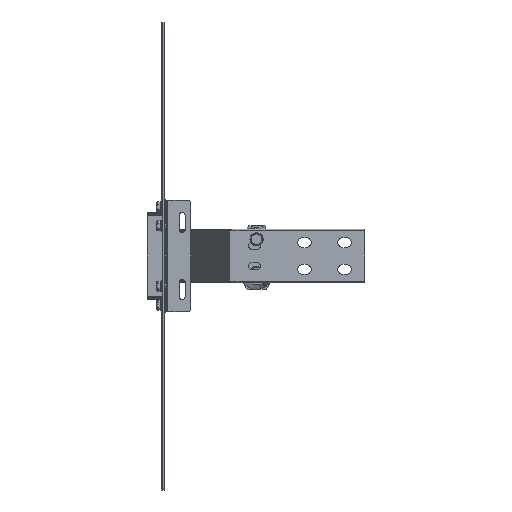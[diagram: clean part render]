
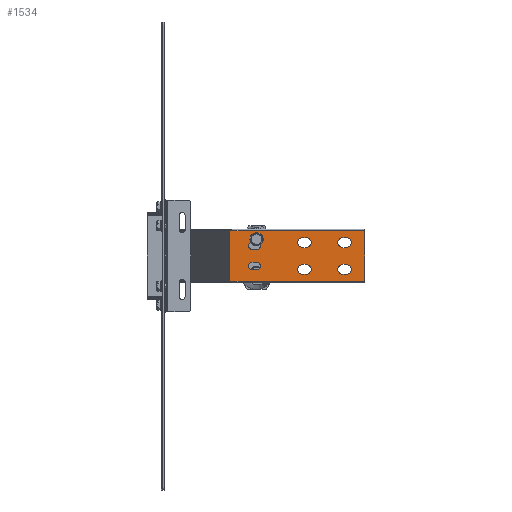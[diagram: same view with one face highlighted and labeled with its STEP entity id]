
A CAD part, front view. The second image highlights one B-rep face of the part: STEP entity #1534.
In plain terms, the highlighted planar face has unit normal (0, -1, 0).
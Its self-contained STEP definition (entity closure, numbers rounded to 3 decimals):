
#1290=AXIS2_PLACEMENT_3D('Circle Axis2P3D',#1288,#1289,$) ;
#1310=AXIS2_PLACEMENT_3D('Plane Axis2P3D',#1307,#1308,#1309) ;
#1348=AXIS2_PLACEMENT_3D('Circle Axis2P3D',#1346,#1347,$) ;
#1366=AXIS2_PLACEMENT_3D('Circle Axis2P3D',#1364,#1365,$) ;
#1382=AXIS2_PLACEMENT_3D('Circle Axis2P3D',#1380,#1381,$) ;
#1400=AXIS2_PLACEMENT_3D('Circle Axis2P3D',#1398,#1399,$) ;
#1416=AXIS2_PLACEMENT_3D('Circle Axis2P3D',#1414,#1415,$) ;
#1443=AXIS2_PLACEMENT_3D('Circle Axis2P3D',#1441,#1442,$) ;
#1457=AXIS2_PLACEMENT_3D('Circle Axis2P3D',#1455,#1456,$) ;
#1468=AXIS2_PLACEMENT_3D('Circle Axis2P3D',#1466,#1467,$) ;
#1484=AXIS2_PLACEMENT_3D('Circle Axis2P3D',#1482,#1483,$) ;
#1502=AXIS2_PLACEMENT_3D('Circle Axis2P3D',#1500,#1501,$) ;
#1518=AXIS2_PLACEMENT_3D('Circle Axis2P3D',#1516,#1517,$) ;
#1254=CARTESIAN_POINT('Vertex',(212.5,-217.2,27.5)) ;
#1257=CARTESIAN_POINT('Line Origine',(210.,-217.2,27.5)) ;
#1261=CARTESIAN_POINT('Vertex',(207.5,-217.2,27.5)) ;
#1288=CARTESIAN_POINT('Axis2P3D Location',(207.5,-217.2,20.)) ;
#1292=CARTESIAN_POINT('Vertex',(207.5,-217.2,12.5)) ;
#1307=CARTESIAN_POINT('Axis2P3D Location',(300.,-217.2,-37.8)) ;
#1312=CARTESIAN_POINT('Line Origine',(199.278,-217.2,-37.8)) ;
#1316=CARTESIAN_POINT('Vertex',(300.,-217.2,-37.8)) ;
#1318=CARTESIAN_POINT('Vertex',(98.557,-217.2,-37.8)) ;
#1321=CARTESIAN_POINT('Line Origine',(300.,-217.2,0.)) ;
#1325=CARTESIAN_POINT('Vertex',(300.,-217.2,37.8)) ;
#1328=CARTESIAN_POINT('Line Origine',(199.278,-217.2,37.8)) ;
#1332=CARTESIAN_POINT('Vertex',(98.557,-217.2,37.8)) ;
#1335=CARTESIAN_POINT('Line Origine',(98.557,-217.2,0.)) ;
#1346=CARTESIAN_POINT('Axis2P3D Location',(212.5,-217.2,20.)) ;
#1350=CARTESIAN_POINT('Vertex',(212.5,-217.2,12.5)) ;
#1353=CARTESIAN_POINT('Line Origine',(210.,-217.2,12.5)) ;
#1364=CARTESIAN_POINT('Axis2P3D Location',(272.5,-217.2,20.)) ;
#1368=CARTESIAN_POINT('Vertex',(272.5,-217.2,12.5)) ;
#1370=CARTESIAN_POINT('Vertex',(272.5,-217.2,27.5)) ;
#1373=CARTESIAN_POINT('Line Origine',(270.,-217.2,12.5)) ;
#1377=CARTESIAN_POINT('Vertex',(267.5,-217.2,12.5)) ;
#1380=CARTESIAN_POINT('Axis2P3D Location',(267.5,-217.2,20.)) ;
#1384=CARTESIAN_POINT('Vertex',(267.5,-217.2,27.5)) ;
#1387=CARTESIAN_POINT('Line Origine',(270.,-217.2,27.5)) ;
#1398=CARTESIAN_POINT('Axis2P3D Location',(207.5,-217.2,-20.)) ;
#1402=CARTESIAN_POINT('Vertex',(207.5,-217.2,-12.5)) ;
#1404=CARTESIAN_POINT('Vertex',(207.5,-217.2,-27.5)) ;
#1407=CARTESIAN_POINT('Line Origine',(210.,-217.2,-12.5)) ;
#1411=CARTESIAN_POINT('Vertex',(212.5,-217.2,-12.5)) ;
#1414=CARTESIAN_POINT('Axis2P3D Location',(212.5,-217.2,-20.)) ;
#1418=CARTESIAN_POINT('Vertex',(212.5,-217.2,-27.5)) ;
#1421=CARTESIAN_POINT('Line Origine',(210.,-217.2,-27.5)) ;
#1432=CARTESIAN_POINT('Line Origine',(270.,-217.2,-12.5)) ;
#1436=CARTESIAN_POINT('Vertex',(272.5,-217.2,-12.5)) ;
#1438=CARTESIAN_POINT('Vertex',(267.5,-217.2,-12.5)) ;
#1441=CARTESIAN_POINT('Axis2P3D Location',(272.5,-217.2,-20.)) ;
#1445=CARTESIAN_POINT('Vertex',(272.5,-217.2,-27.5)) ;
#1448=CARTESIAN_POINT('Line Origine',(270.,-217.2,-27.5)) ;
#1452=CARTESIAN_POINT('Vertex',(267.5,-217.2,-27.5)) ;
#1455=CARTESIAN_POINT('Axis2P3D Location',(267.5,-217.2,-20.)) ;
#1466=CARTESIAN_POINT('Axis2P3D Location',(138.5,-217.2,15.)) ;
#1470=CARTESIAN_POINT('Vertex',(138.5,-217.2,9.5)) ;
#1472=CARTESIAN_POINT('Vertex',(138.5,-217.2,20.5)) ;
#1475=CARTESIAN_POINT('Line Origine',(135.,-217.2,9.5)) ;
#1479=CARTESIAN_POINT('Vertex',(131.5,-217.2,9.5)) ;
#1482=CARTESIAN_POINT('Axis2P3D Location',(131.5,-217.2,15.)) ;
#1486=CARTESIAN_POINT('Vertex',(131.5,-217.2,20.5)) ;
#1489=CARTESIAN_POINT('Line Origine',(135.,-217.2,20.5)) ;
#1500=CARTESIAN_POINT('Axis2P3D Location',(131.5,-217.2,-15.)) ;
#1504=CARTESIAN_POINT('Vertex',(131.5,-217.2,-9.5)) ;
#1506=CARTESIAN_POINT('Vertex',(131.5,-217.2,-20.5)) ;
#1509=CARTESIAN_POINT('Line Origine',(135.,-217.2,-9.5)) ;
#1513=CARTESIAN_POINT('Vertex',(138.5,-217.2,-9.5)) ;
#1516=CARTESIAN_POINT('Axis2P3D Location',(138.5,-217.2,-15.)) ;
#1520=CARTESIAN_POINT('Vertex',(138.5,-217.2,-20.5)) ;
#1523=CARTESIAN_POINT('Line Origine',(135.,-217.2,-20.5)) ;
#1258=DIRECTION('Vector Direction',(1.,0.,0.)) ;
#1289=DIRECTION('Axis2P3D Direction',(0.,-1.,0.)) ;
#1308=DIRECTION('Axis2P3D Direction',(0.,-1.,0.)) ;
#1309=DIRECTION('Axis2P3D XDirection',(0.,0.,1.)) ;
#1313=DIRECTION('Vector Direction',(-1.,0.,0.)) ;
#1322=DIRECTION('Vector Direction',(0.,0.,1.)) ;
#1329=DIRECTION('Vector Direction',(-1.,0.,0.)) ;
#1336=DIRECTION('Vector Direction',(0.,0.,1.)) ;
#1347=DIRECTION('Axis2P3D Direction',(0.,-1.,0.)) ;
#1354=DIRECTION('Vector Direction',(-1.,0.,0.)) ;
#1365=DIRECTION('Axis2P3D Direction',(0.,-1.,0.)) ;
#1374=DIRECTION('Vector Direction',(1.,0.,0.)) ;
#1381=DIRECTION('Axis2P3D Direction',(0.,-1.,0.)) ;
#1388=DIRECTION('Vector Direction',(-1.,0.,0.)) ;
#1399=DIRECTION('Axis2P3D Direction',(0.,-1.,0.)) ;
#1408=DIRECTION('Vector Direction',(-1.,0.,0.)) ;
#1415=DIRECTION('Axis2P3D Direction',(0.,-1.,0.)) ;
#1422=DIRECTION('Vector Direction',(1.,0.,0.)) ;
#1433=DIRECTION('Vector Direction',(1.,0.,0.)) ;
#1442=DIRECTION('Axis2P3D Direction',(0.,-1.,0.)) ;
#1449=DIRECTION('Vector Direction',(-1.,0.,0.)) ;
#1456=DIRECTION('Axis2P3D Direction',(0.,-1.,0.)) ;
#1467=DIRECTION('Axis2P3D Direction',(0.,-1.,0.)) ;
#1476=DIRECTION('Vector Direction',(-1.,0.,0.)) ;
#1483=DIRECTION('Axis2P3D Direction',(0.,-1.,0.)) ;
#1490=DIRECTION('Vector Direction',(1.,0.,0.)) ;
#1501=DIRECTION('Axis2P3D Direction',(0.,-1.,0.)) ;
#1510=DIRECTION('Vector Direction',(-1.,0.,0.)) ;
#1517=DIRECTION('Axis2P3D Direction',(0.,-1.,0.)) ;
#1524=DIRECTION('Vector Direction',(1.,0.,0.)) ;
#1259=VECTOR('Line Direction',#1258,1.) ;
#1314=VECTOR('Line Direction',#1313,1.) ;
#1323=VECTOR('Line Direction',#1322,1.) ;
#1330=VECTOR('Line Direction',#1329,1.) ;
#1337=VECTOR('Line Direction',#1336,1.) ;
#1355=VECTOR('Line Direction',#1354,1.) ;
#1375=VECTOR('Line Direction',#1374,1.) ;
#1389=VECTOR('Line Direction',#1388,1.) ;
#1409=VECTOR('Line Direction',#1408,1.) ;
#1423=VECTOR('Line Direction',#1422,1.) ;
#1434=VECTOR('Line Direction',#1433,1.) ;
#1450=VECTOR('Line Direction',#1449,1.) ;
#1477=VECTOR('Line Direction',#1476,1.) ;
#1491=VECTOR('Line Direction',#1490,1.) ;
#1511=VECTOR('Line Direction',#1510,1.) ;
#1525=VECTOR('Line Direction',#1524,1.) ;
#1341=ORIENTED_EDGE('',*,*,#1320,.F.) ;
#1342=ORIENTED_EDGE('',*,*,#1327,.F.) ;
#1343=ORIENTED_EDGE('',*,*,#1334,.T.) ;
#1344=ORIENTED_EDGE('',*,*,#1339,.F.) ;
#1359=ORIENTED_EDGE('',*,*,#1352,.F.) ;
#1360=ORIENTED_EDGE('',*,*,#1357,.F.) ;
#1361=ORIENTED_EDGE('',*,*,#1294,.F.) ;
#1362=ORIENTED_EDGE('',*,*,#1263,.F.) ;
#1393=ORIENTED_EDGE('',*,*,#1372,.F.) ;
#1394=ORIENTED_EDGE('',*,*,#1379,.F.) ;
#1395=ORIENTED_EDGE('',*,*,#1386,.F.) ;
#1396=ORIENTED_EDGE('',*,*,#1391,.F.) ;
#1427=ORIENTED_EDGE('',*,*,#1406,.F.) ;
#1428=ORIENTED_EDGE('',*,*,#1413,.F.) ;
#1429=ORIENTED_EDGE('',*,*,#1420,.F.) ;
#1430=ORIENTED_EDGE('',*,*,#1425,.F.) ;
#1461=ORIENTED_EDGE('',*,*,#1440,.F.) ;
#1462=ORIENTED_EDGE('',*,*,#1447,.F.) ;
#1463=ORIENTED_EDGE('',*,*,#1454,.F.) ;
#1464=ORIENTED_EDGE('',*,*,#1459,.F.) ;
#1495=ORIENTED_EDGE('',*,*,#1474,.F.) ;
#1496=ORIENTED_EDGE('',*,*,#1481,.F.) ;
#1497=ORIENTED_EDGE('',*,*,#1488,.F.) ;
#1498=ORIENTED_EDGE('',*,*,#1493,.F.) ;
#1529=ORIENTED_EDGE('',*,*,#1508,.F.) ;
#1530=ORIENTED_EDGE('',*,*,#1515,.F.) ;
#1531=ORIENTED_EDGE('',*,*,#1522,.F.) ;
#1532=ORIENTED_EDGE('',*,*,#1527,.F.) ;
#1363=FACE_BOUND('',#1358,.T.) ;
#1397=FACE_BOUND('',#1392,.T.) ;
#1431=FACE_BOUND('',#1426,.T.) ;
#1465=FACE_BOUND('',#1460,.T.) ;
#1499=FACE_BOUND('',#1494,.T.) ;
#1533=FACE_BOUND('',#1528,.T.) ;
#1534=ADVANCED_FACE('N',(#1345,#1363,#1397,#1431,#1465,#1499,#1533),#1311,.T.) ;
#1291=CIRCLE('generated circle',#1290,7.5) ;
#1349=CIRCLE('generated circle',#1348,7.5) ;
#1367=CIRCLE('generated circle',#1366,7.5) ;
#1383=CIRCLE('generated circle',#1382,7.5) ;
#1401=CIRCLE('generated circle',#1400,7.5) ;
#1417=CIRCLE('generated circle',#1416,7.5) ;
#1444=CIRCLE('generated circle',#1443,7.5) ;
#1458=CIRCLE('generated circle',#1457,7.5) ;
#1469=CIRCLE('generated circle',#1468,5.5) ;
#1485=CIRCLE('generated circle',#1484,5.5) ;
#1503=CIRCLE('generated circle',#1502,5.5) ;
#1519=CIRCLE('generated circle',#1518,5.5) ;
#1263=EDGE_CURVE('',#1255,#1262,#1260,.F.) ;
#1294=EDGE_CURVE('',#1262,#1293,#1291,.T.) ;
#1320=EDGE_CURVE('',#1317,#1319,#1315,.T.) ;
#1327=EDGE_CURVE('',#1326,#1317,#1324,.F.) ;
#1334=EDGE_CURVE('',#1326,#1333,#1331,.T.) ;
#1339=EDGE_CURVE('',#1319,#1333,#1338,.T.) ;
#1352=EDGE_CURVE('',#1351,#1255,#1349,.T.) ;
#1357=EDGE_CURVE('',#1293,#1351,#1356,.F.) ;
#1372=EDGE_CURVE('',#1369,#1371,#1367,.T.) ;
#1379=EDGE_CURVE('',#1378,#1369,#1376,.T.) ;
#1386=EDGE_CURVE('',#1385,#1378,#1383,.T.) ;
#1391=EDGE_CURVE('',#1371,#1385,#1390,.T.) ;
#1406=EDGE_CURVE('',#1403,#1405,#1401,.T.) ;
#1413=EDGE_CURVE('',#1412,#1403,#1410,.T.) ;
#1420=EDGE_CURVE('',#1419,#1412,#1417,.T.) ;
#1425=EDGE_CURVE('',#1405,#1419,#1424,.T.) ;
#1440=EDGE_CURVE('',#1437,#1439,#1435,.F.) ;
#1447=EDGE_CURVE('',#1446,#1437,#1444,.T.) ;
#1454=EDGE_CURVE('',#1453,#1446,#1451,.F.) ;
#1459=EDGE_CURVE('',#1439,#1453,#1458,.T.) ;
#1474=EDGE_CURVE('',#1471,#1473,#1469,.T.) ;
#1481=EDGE_CURVE('',#1480,#1471,#1478,.F.) ;
#1488=EDGE_CURVE('',#1487,#1480,#1485,.T.) ;
#1493=EDGE_CURVE('',#1473,#1487,#1492,.F.) ;
#1508=EDGE_CURVE('',#1505,#1507,#1503,.T.) ;
#1515=EDGE_CURVE('',#1514,#1505,#1512,.T.) ;
#1522=EDGE_CURVE('',#1521,#1514,#1519,.T.) ;
#1527=EDGE_CURVE('',#1507,#1521,#1526,.T.) ;
#1340=EDGE_LOOP('',(#1341,#1342,#1343,#1344)) ;
#1358=EDGE_LOOP('',(#1359,#1360,#1361,#1362)) ;
#1392=EDGE_LOOP('',(#1393,#1394,#1395,#1396)) ;
#1426=EDGE_LOOP('',(#1427,#1428,#1429,#1430)) ;
#1460=EDGE_LOOP('',(#1461,#1462,#1463,#1464)) ;
#1494=EDGE_LOOP('',(#1495,#1496,#1497,#1498)) ;
#1528=EDGE_LOOP('',(#1529,#1530,#1531,#1532)) ;
#1345=FACE_OUTER_BOUND('',#1340,.T.) ;
#1260=LINE('Line',#1257,#1259) ;
#1315=LINE('Line',#1312,#1314) ;
#1324=LINE('Line',#1321,#1323) ;
#1331=LINE('Line',#1328,#1330) ;
#1338=LINE('Line',#1335,#1337) ;
#1356=LINE('Line',#1353,#1355) ;
#1376=LINE('Line',#1373,#1375) ;
#1390=LINE('Line',#1387,#1389) ;
#1410=LINE('Line',#1407,#1409) ;
#1424=LINE('Line',#1421,#1423) ;
#1435=LINE('Line',#1432,#1434) ;
#1451=LINE('Line',#1448,#1450) ;
#1478=LINE('Line',#1475,#1477) ;
#1492=LINE('Line',#1489,#1491) ;
#1512=LINE('Line',#1509,#1511) ;
#1526=LINE('Line',#1523,#1525) ;
#1311=PLANE('',#1310) ;
#1255=VERTEX_POINT('',#1254) ;
#1262=VERTEX_POINT('',#1261) ;
#1293=VERTEX_POINT('',#1292) ;
#1317=VERTEX_POINT('',#1316) ;
#1319=VERTEX_POINT('',#1318) ;
#1326=VERTEX_POINT('',#1325) ;
#1333=VERTEX_POINT('',#1332) ;
#1351=VERTEX_POINT('',#1350) ;
#1369=VERTEX_POINT('',#1368) ;
#1371=VERTEX_POINT('',#1370) ;
#1378=VERTEX_POINT('',#1377) ;
#1385=VERTEX_POINT('',#1384) ;
#1403=VERTEX_POINT('',#1402) ;
#1405=VERTEX_POINT('',#1404) ;
#1412=VERTEX_POINT('',#1411) ;
#1419=VERTEX_POINT('',#1418) ;
#1437=VERTEX_POINT('',#1436) ;
#1439=VERTEX_POINT('',#1438) ;
#1446=VERTEX_POINT('',#1445) ;
#1453=VERTEX_POINT('',#1452) ;
#1471=VERTEX_POINT('',#1470) ;
#1473=VERTEX_POINT('',#1472) ;
#1480=VERTEX_POINT('',#1479) ;
#1487=VERTEX_POINT('',#1486) ;
#1505=VERTEX_POINT('',#1504) ;
#1507=VERTEX_POINT('',#1506) ;
#1514=VERTEX_POINT('',#1513) ;
#1521=VERTEX_POINT('',#1520) ;
